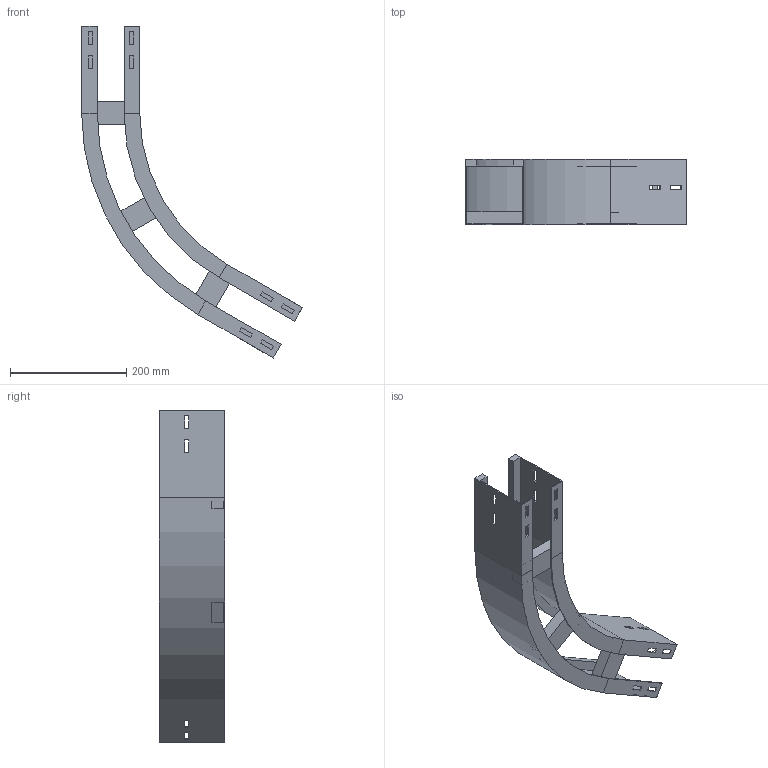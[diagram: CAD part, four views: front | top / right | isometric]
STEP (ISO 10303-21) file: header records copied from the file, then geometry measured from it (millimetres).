
FILE_DESCRIPTION (( 'STEP AP214' ), '1' );
FILE_NAME ('A2_13B3J100.step', '2025-02-21T15:19:17', ( '' ), ( '' ), 'SwSTEP 2.0', 'SolidWorks 2023', '' );
FILE_SCHEMA (( 'AUTOMOTIVE_DESIGN' ));
Length unit declared in the file: millimetre
Products named in the file (4): TRAVERSINO_100; A2_LONGH.ESTERNO 60°_H112.5_R300+100; A2_13B3J100; A2_LONGH.INTERNO 60°_H112.5_R300
Assembly tree (5 placements, depth 2):
  A2_13B3J100
    A2_LONGH.INTERNO 60°_H112.5_R300
    A2_LONGH.ESTERNO 60°_H112.5_R300+100
    TRAVERSINO_100  x3
Bounding box: 379.9 x 112.5 x 571.41 mm (x, y, z)
Volume: 850880.9 mm3; surface area: 453078.9 mm2
Topology: 5 solids, 5 shells, 134 faces, 340 edges, 216 vertices
Faces by surface type: plane 126, cylinder 8
Entity records: 3821 total; most frequent: CARTESIAN_POINT 646, ORIENTED_EDGE 632, DIRECTION 592, EDGE_CURVE 316, LINE 300, VECTOR 300, VERTEX_POINT 200, EDGE_LOOP 154
